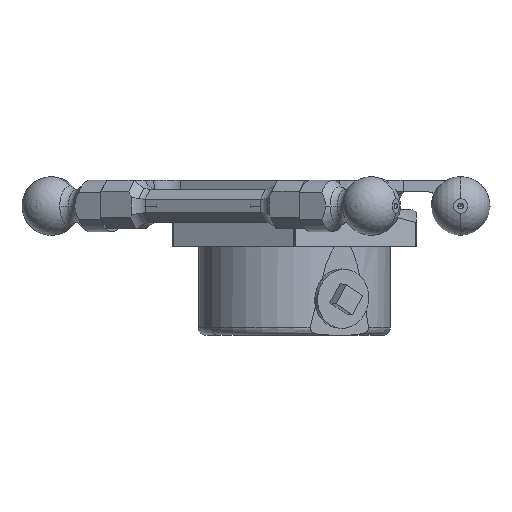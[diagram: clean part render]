
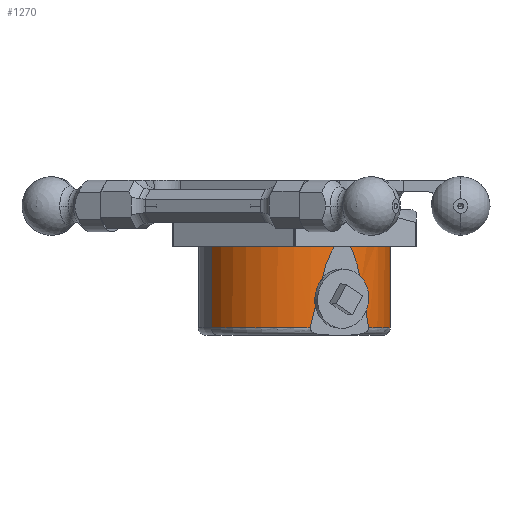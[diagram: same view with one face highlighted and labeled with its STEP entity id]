
A CAD part, front view. The second image highlights one B-rep face of the part: STEP entity #1270.
In plain terms, the highlighted cylindrical face has radius 26 mm (diameter 52 mm), a partial arc.
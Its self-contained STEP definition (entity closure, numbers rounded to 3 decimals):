
#281 = DIRECTION ( 'NONE',  ( 0.866, 0.5, 0. ) ) ;
#461 = VECTOR ( 'NONE', #3462, 1000. ) ;
#537 = EDGE_CURVE ( 'NONE', #9223, #14952, #14463, .T. ) ;
#549 = CARTESIAN_POINT ( 'NONE',  ( 26.081, 1., -928.545 ) ) ;
#590 = CIRCLE ( 'NONE', #9048, 26. ) ;
#721 = EDGE_CURVE ( 'NONE', #10362, #8934, #8093, .T. ) ;
#792 = CARTESIAN_POINT ( 'NONE',  ( 26.081, -1., -925.584 ) ) ;
#945 = AXIS2_PLACEMENT_3D ( 'NONE', #5578, #7872, #8923 ) ;
#948 = ORIENTED_EDGE ( 'NONE', *, *, #10196, .T. ) ;
#1010 = EDGE_CURVE ( 'NONE', #14927, #3744, #3226, .T. ) ;
#1270 = ADVANCED_FACE ( 'NONE', ( #10640 ), #3899, .T. ) ;
#1346 = CARTESIAN_POINT ( 'NONE',  ( 26.081, -1., -925.584 ) ) ;
#1447 = EDGE_CURVE ( 'NONE', #14884, #11109, #13909, .T. ) ;
#1943 = EDGE_CURVE ( 'NONE', #3007, #10362, #10732, .T. ) ;
#2017 = CARTESIAN_POINT ( 'NONE',  ( 20.187, -16.508, -928.545 ) ) ;
#2133 = CARTESIAN_POINT ( 'NONE',  ( 20.187, -16.508, -928.545 ) ) ;
#2541 = CARTESIAN_POINT ( 'NONE',  ( 0.1, 0., -904.545 ) ) ;
#2569 = CARTESIAN_POINT ( 'NONE',  ( 26.081, 1., -925.584 ) ) ;
#2739 = VECTOR ( 'NONE', #9119, 1000. ) ;
#2758 = ORIENTED_EDGE ( 'NONE', *, *, #7420, .T. ) ;
#3007 = VERTEX_POINT ( 'NONE', #2569 ) ;
#3226 = LINE ( 'NONE', #8074, #14472 ) ;
#3462 = DIRECTION ( 'NONE',  ( 0., 0., -1. ) ) ;
#3703 = LINE ( 'NONE', #12937, #6076 ) ;
#3744 = VERTEX_POINT ( 'NONE', #7003 ) ;
#3899 = CYLINDRICAL_SURFACE ( 'NONE', #13745, 26. ) ;
#3992 = DIRECTION ( 'NONE',  ( 0.866, 0.5, 0. ) ) ;
#4128 = DIRECTION ( 'NONE',  ( 0., 0., -1. ) ) ;
#4529 = CARTESIAN_POINT ( 'NONE',  ( 0.1, 0., -928.545 ) ) ;
#4588 = CARTESIAN_POINT ( 'NONE',  ( 26.081, -1., -930.545 ) ) ;
#4665 = CARTESIAN_POINT ( 'NONE',  ( -22.417, -13., -904.545 ) ) ;
#4682 = CIRCLE ( 'NONE', #10756, 26. ) ;
#4955 = DIRECTION ( 'NONE',  ( 0., 0., -1. ) ) ;
#5072 = VERTEX_POINT ( 'NONE', #11608 ) ;
#5198 = EDGE_LOOP ( 'NONE', ( #948, #13883, #2758, #6981, #7295, #11132, #14758, #8503, #14117, #14762 ) ) ;
#5565 = DIRECTION ( 'NONE',  ( 0., 0., -1. ) ) ;
#5578 = CARTESIAN_POINT ( 'NONE',  ( 0.1, 0., -928.545 ) ) ;
#5705 = CARTESIAN_POINT ( 'NONE',  ( 26.081, -1., -928.545 ) ) ;
#6076 = VECTOR ( 'NONE', #12781, 1000. ) ;
#6940 = CARTESIAN_POINT ( 'NONE',  ( 4.353, -25.65, -928.545 ) ) ;
#6981 = ORIENTED_EDGE ( 'NONE', *, *, #1447, .T. ) ;
#7003 = CARTESIAN_POINT ( 'NONE',  ( -22.417, -13., -928.545 ) ) ;
#7082 = DIRECTION ( 'NONE',  ( 0.866, 0.5, 0. ) ) ;
#7118 = CARTESIAN_POINT ( 'NONE',  ( 26.081, 1., -925.584 ) ) ;
#7167 = EDGE_CURVE ( 'NONE', #11109, #8934, #590, .T. ) ;
#7295 = ORIENTED_EDGE ( 'NONE', *, *, #7167, .T. ) ;
#7420 = EDGE_CURVE ( 'NONE', #3744, #14884, #4682, .T. ) ;
#7872 = DIRECTION ( 'NONE',  ( 0., 0., 1. ) ) ;
#8074 = CARTESIAN_POINT ( 'NONE',  ( -22.417, -13., -930.545 ) ) ;
#8093 = LINE ( 'NONE', #4588, #461 ) ;
#8503 = ORIENTED_EDGE ( 'NONE', *, *, #12401, .T. ) ;
#8923 = DIRECTION ( 'NONE',  ( 0.866, 0.5, 0. ) ) ;
#8934 = VERTEX_POINT ( 'NONE', #5705 ) ;
#9048 = AXIS2_PLACEMENT_3D ( 'NONE', #4529, #14984, #14068 ) ;
#9049 = CARTESIAN_POINT ( 'NONE',  ( 26.081, 1., -930.545 ) ) ;
#9119 = DIRECTION ( 'NONE',  ( 0., 0., -1. ) ) ;
#9184 = CARTESIAN_POINT ( 'NONE',  ( 16.145, -21.426, -896.538 ) ) ;
#9223 = VERTEX_POINT ( 'NONE', #549 ) ;
#9362 = CARTESIAN_POINT ( 'NONE',  ( 22.617, 13., -928.545 ) ) ;
#9384 = CARTESIAN_POINT ( 'NONE',  ( 26.106, 0.333, -925.531 ) ) ;
#10196 = EDGE_CURVE ( 'NONE', #5072, #14927, #14316, .T. ) ;
#10255 = LINE ( 'NONE', #9049, #2739 ) ;
#10362 = VERTEX_POINT ( 'NONE', #792 ) ;
#10492 = CARTESIAN_POINT ( 'NONE',  ( 0.1, 0., -930.545 ) ) ;
#10640 = FACE_OUTER_BOUND ( 'NONE', #5198, .T. ) ;
#10732 = B_SPLINE_CURVE_WITH_KNOTS ( 'NONE', 3,
 ( #7118, #9384, #12865, #1346 ),
 .UNSPECIFIED., .F., .F.,
 ( 4, 4 ),
 ( 0., 0.002 ),
 .UNSPECIFIED. ) ;
#10756 = AXIS2_PLACEMENT_3D ( 'NONE', #14377, #14149, #281 ) ;
#10880 = EDGE_CURVE ( 'NONE', #5072, #14952, #3703, .T. ) ;
#11109 = VERTEX_POINT ( 'NONE', #2017 ) ;
#11132 = ORIENTED_EDGE ( 'NONE', *, *, #721, .F. ) ;
#11452 = CARTESIAN_POINT ( 'NONE',  ( 10.633, -24.609, -896.538 ) ) ;
#11608 = CARTESIAN_POINT ( 'NONE',  ( 22.617, 13., -904.545 ) ) ;
#12401 = EDGE_CURVE ( 'NONE', #3007, #9223, #10255, .T. ) ;
#12781 = DIRECTION ( 'NONE',  ( 0., 0., -1. ) ) ;
#12865 = CARTESIAN_POINT ( 'NONE',  ( 26.106, -0.333, -925.531 ) ) ;
#12937 = CARTESIAN_POINT ( 'NONE',  ( 22.617, 13., -930.545 ) ) ;
#13576 = CARTESIAN_POINT ( 'NONE',  ( 4.353, -25.65, -928.545 ) ) ;
#13745 = AXIS2_PLACEMENT_3D ( 'NONE', #10492, #4955, #7082 ) ;
#13825 = AXIS2_PLACEMENT_3D ( 'NONE', #2541, #4128, #3992 ) ;
#13883 = ORIENTED_EDGE ( 'NONE', *, *, #1010, .T. ) ;
#13909 =( BOUNDED_CURVE ( )  B_SPLINE_CURVE ( 3, ( #13576, #11452, #9184, #2133 ),
 .UNSPECIFIED., .F., .T. ) 
 B_SPLINE_CURVE_WITH_KNOTS ( ( 4, 4 ),
 ( 2.782, 3.501 ),
 .UNSPECIFIED. ) 
 CURVE ( )  GEOMETRIC_REPRESENTATION_ITEM ( )  RATIONAL_B_SPLINE_CURVE ( ( 1., 0.957, 0.957, 1. ) ) 
 REPRESENTATION_ITEM ( '' )  );
#14068 = DIRECTION ( 'NONE',  ( 0.866, 0.5, 0. ) ) ;
#14117 = ORIENTED_EDGE ( 'NONE', *, *, #537, .T. ) ;
#14149 = DIRECTION ( 'NONE',  ( 0., 0., 1. ) ) ;
#14316 = CIRCLE ( 'NONE', #13825, 26. ) ;
#14377 = CARTESIAN_POINT ( 'NONE',  ( 0.1, 0., -928.545 ) ) ;
#14463 = CIRCLE ( 'NONE', #945, 26. ) ;
#14472 = VECTOR ( 'NONE', #5565, 1000. ) ;
#14758 = ORIENTED_EDGE ( 'NONE', *, *, #1943, .F. ) ;
#14762 = ORIENTED_EDGE ( 'NONE', *, *, #10880, .F. ) ;
#14884 = VERTEX_POINT ( 'NONE', #6940 ) ;
#14927 = VERTEX_POINT ( 'NONE', #4665 ) ;
#14952 = VERTEX_POINT ( 'NONE', #9362 ) ;
#14984 = DIRECTION ( 'NONE',  ( 0., 0., 1. ) ) ;
